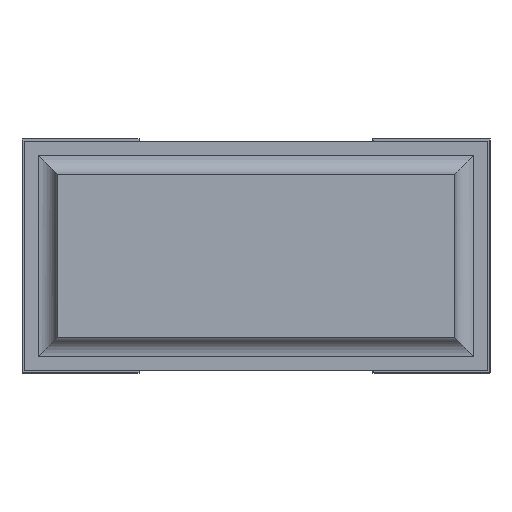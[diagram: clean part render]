
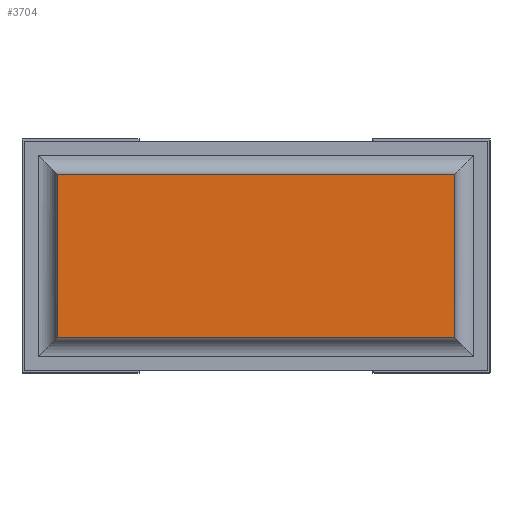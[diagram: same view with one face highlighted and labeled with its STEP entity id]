
A CAD part, front view. The second image highlights one B-rep face of the part: STEP entity #3704.
In plain terms, the highlighted planar face has unit normal (0, -1, 0).
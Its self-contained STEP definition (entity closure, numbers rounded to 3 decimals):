
#230=FACE_OUTER_BOUND('',#435,.T.);
#435=EDGE_LOOP('',(#2851,#2852,#2853,#2854));
#747=LINE('',#5600,#1215);
#751=LINE('',#5614,#1219);
#760=LINE('',#5630,#1228);
#761=LINE('',#5632,#1229);
#1215=VECTOR('',#4539,10.);
#1219=VECTOR('',#4551,10.);
#1228=VECTOR('',#4566,10.);
#1229=VECTOR('',#4569,10.);
#1643=VERTEX_POINT('',#5596);
#1644=VERTEX_POINT('',#5598);
#1649=VERTEX_POINT('',#5611);
#1650=VERTEX_POINT('',#5613);
#2069=EDGE_CURVE('',#1643,#1644,#747,.T.);
#2075=EDGE_CURVE('',#1649,#1650,#751,.T.);
#2084=EDGE_CURVE('',#1643,#1649,#760,.T.);
#2085=EDGE_CURVE('',#1650,#1644,#761,.T.);
#2851=ORIENTED_EDGE('',*,*,#2075,.F.);
#2852=ORIENTED_EDGE('',*,*,#2084,.F.);
#2853=ORIENTED_EDGE('',*,*,#2069,.T.);
#2854=ORIENTED_EDGE('',*,*,#2085,.F.);
#3529=PLANE('',#3970);
#3704=ADVANCED_FACE('',(#230),#3529,.T.);
#3970=AXIS2_PLACEMENT_3D('',#5631,#4567,#4568);
#4539=DIRECTION('',(0.,0.,-1.));
#4551=DIRECTION('',(0.,0.,-1.));
#4566=DIRECTION('',(1.,0.,0.));
#4567=DIRECTION('center_axis',(0.,-1.,0.));
#4568=DIRECTION('ref_axis',(0.,0.,-1.));
#4569=DIRECTION('',(-1.,0.,0.));
#5596=CARTESIAN_POINT('',(0.075,0.,0.425));
#5598=CARTESIAN_POINT('',(0.075,0.,0.075));
#5600=CARTESIAN_POINT('',(0.075,0.,0.425));
#5611=CARTESIAN_POINT('',(0.925,0.,0.425));
#5613=CARTESIAN_POINT('',(0.925,0.,0.075));
#5614=CARTESIAN_POINT('',(0.925,0.,0.425));
#5630=CARTESIAN_POINT('',(0.075,0.,0.425));
#5631=CARTESIAN_POINT('Origin',(0.926,0.,0.25));
#5632=CARTESIAN_POINT('',(0.925,0.,0.075));
